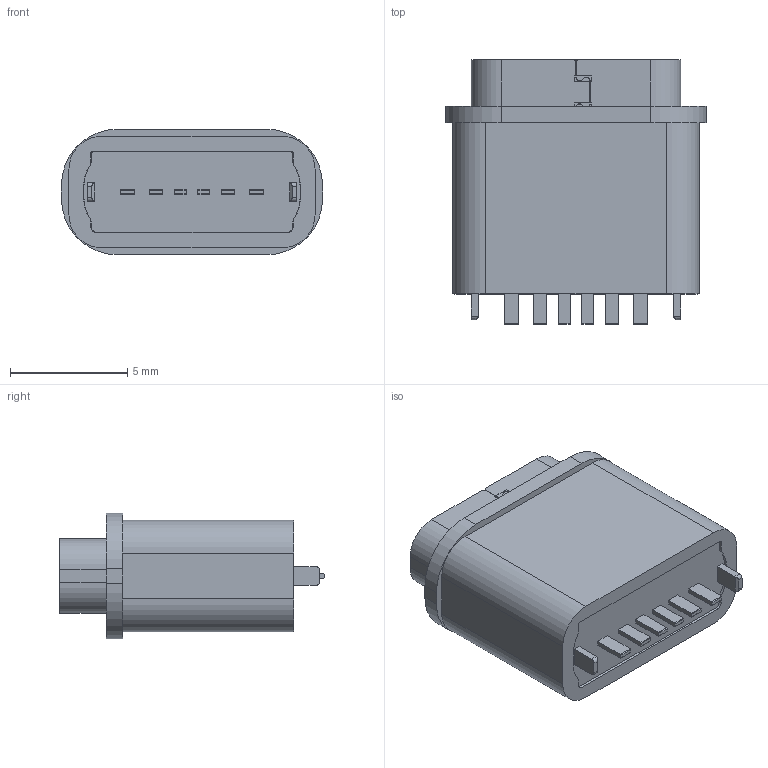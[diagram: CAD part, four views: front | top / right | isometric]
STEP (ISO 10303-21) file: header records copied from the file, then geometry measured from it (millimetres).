
FILE_DESCRIPTION((''),'2;1');
FILE_NAME('TYPE_C_6PH_10_00001','2023-11-13T17:14:04',('Administrator'),(''),'CREO PARAMETRIC BY PTC INC, 2019080','CREO PARAMETRIC BY PTC INC, 2019080','');
FILE_SCHEMA(('CONFIG_CONTROL_DESIGN'));
Length unit declared in the file: millimetre
Products named in the file (1): TYPE_C_6PH_10_00001
Bounding box: 11.14 x 11.3 x 5.36 mm (x, y, z)
Volume: 373 mm3; surface area: 584.8 mm2
Topology: 1 solids, 3 shells, 645 faces, 1731 edges, 1128 vertices
Faces by surface type: plane 503, cylinder 108, cone 22, torus 12
Entity records: 19962 total; most frequent: CARTESIAN_POINT 3573, ORIENTED_EDGE 3462, DIRECTION 3253, EDGE_CURVE 1731, VECTOR 1463, LINE 1463, VERTEX_POINT 1128, AXIS2_PLACEMENT_3D 895
